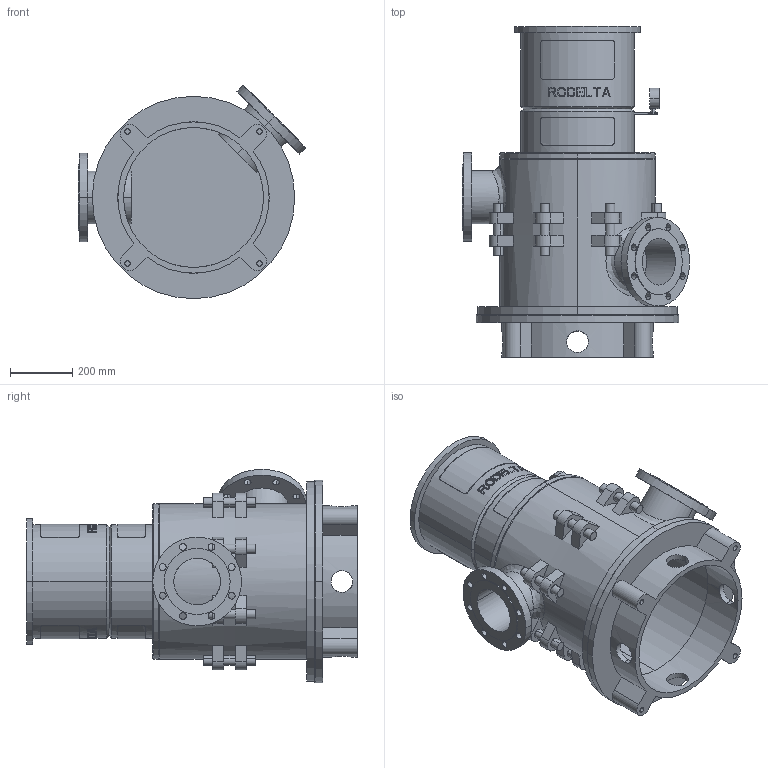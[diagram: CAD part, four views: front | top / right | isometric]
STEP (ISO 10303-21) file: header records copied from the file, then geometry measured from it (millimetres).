
FILE_DESCRIPTION((''),'2;1');
FILE_NAME('LS6_1TR_0GR_TOT_30KW','2023-08-11T',('Lyritlocal'),(''),'PRO/ENGINEER BY PARAMETRIC TECHNOLOGY CORPORATION, 2016360','PRO/ENGINEER BY PARAMETRIC TECHNOLOGY CORPORATION, 2016360','');
FILE_SCHEMA(('CONFIG_CONTROL_DESIGN'));
Length unit declared in the file: millimetre
Products named in the file (1): LS6_1TR_0GR_TOT_30KW
Bounding box: 730.27 x 1063 x 685.27 mm (x, y, z)
Volume: 36733824.7 mm3; surface area: 4647416.9 mm2
Topology: 3 solids, 7 shells, 684 faces, 1767 edges, 1174 vertices
Faces by surface type: plane 422, cylinder 242, cone 12, bspline 8
Entity records: 22721 total; most frequent: CARTESIAN_POINT 6109, ORIENTED_EDGE 3518, DIRECTION 3273, EDGE_CURVE 1767, AXIS2_PLACEMENT_3D 1237, VERTEX_POINT 1174, EDGE_LOOP 829, VECTOR 799
